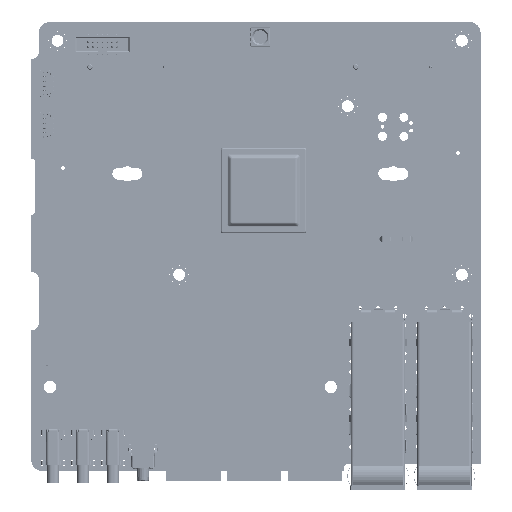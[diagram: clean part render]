
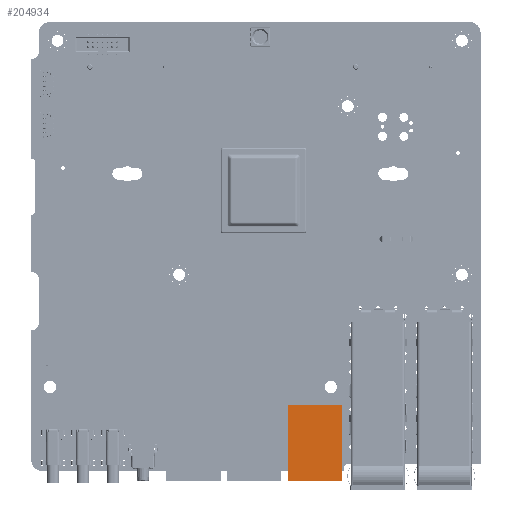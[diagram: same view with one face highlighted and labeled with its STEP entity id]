
A CAD part, top view. The second image highlights one B-rep face of the part: STEP entity #204934.
In plain terms, the highlighted planar face has unit normal (0, 0, 1).
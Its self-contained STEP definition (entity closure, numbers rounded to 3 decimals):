
#21635=PLANE('',#221021);
#32014=FACE_OUTER_BOUND('',#43278,.T.);
#43278=EDGE_LOOP('',(#191527,#191528,#191529,#191530));
#64785=LINE('',#341772,#86847);
#64790=LINE('',#341782,#86852);
#65154=LINE('',#342557,#87216);
#65167=LINE('',#342580,#87229);
#86847=VECTOR('',#272217,20.199);
#86852=VECTOR('',#272224,20.199);
#87216=VECTOR('',#272764,14.58);
#87229=VECTOR('',#272787,14.58);
#110739=VERTEX_POINT('',#341759);
#110744=VERTEX_POINT('',#341770);
#110747=VERTEX_POINT('',#341779);
#110748=VERTEX_POINT('',#341781);
#137601=EDGE_CURVE('',#110739,#110744,#64785,.T.);
#137606=EDGE_CURVE('',#110747,#110748,#64790,.T.);
#138002=EDGE_CURVE('',#110748,#110744,#65154,.T.);
#138015=EDGE_CURVE('',#110739,#110747,#65167,.T.);
#191527=ORIENTED_EDGE('',*,*,#137601,.T.);
#191528=ORIENTED_EDGE('',*,*,#138002,.F.);
#191529=ORIENTED_EDGE('',*,*,#137606,.F.);
#191530=ORIENTED_EDGE('',*,*,#138015,.F.);
#204934=ADVANCED_FACE('',(#32014),#21635,.F.);
#221021=AXIS2_PLACEMENT_3D('',#342604,#272811,#272812);
#272217=DIRECTION('',(0.,1.,0.));
#272224=DIRECTION('',(0.,1.,0.));
#272764=DIRECTION('',(1.,0.,0.));
#272787=DIRECTION('',(-1.,0.,0.));
#272811=DIRECTION('center_axis',(0.,0.,-1.));
#272812=DIRECTION('ref_axis',(-1.,0.,0.));
#341759=CARTESIAN_POINT('',(7.294,-7.508,9.22));
#341770=CARTESIAN_POINT('',(7.294,12.691,9.22));
#341772=CARTESIAN_POINT('',(7.294,-7.508,9.22));
#341779=CARTESIAN_POINT('',(-7.286,-7.508,9.22));
#341781=CARTESIAN_POINT('',(-7.286,12.691,9.22));
#341782=CARTESIAN_POINT('',(-7.286,-7.508,9.22));
#342557=CARTESIAN_POINT('',(-7.286,12.691,9.22));
#342580=CARTESIAN_POINT('',(7.294,-7.508,9.22));
#342604=CARTESIAN_POINT('Origin',(-7.286,-7.508,9.22));
